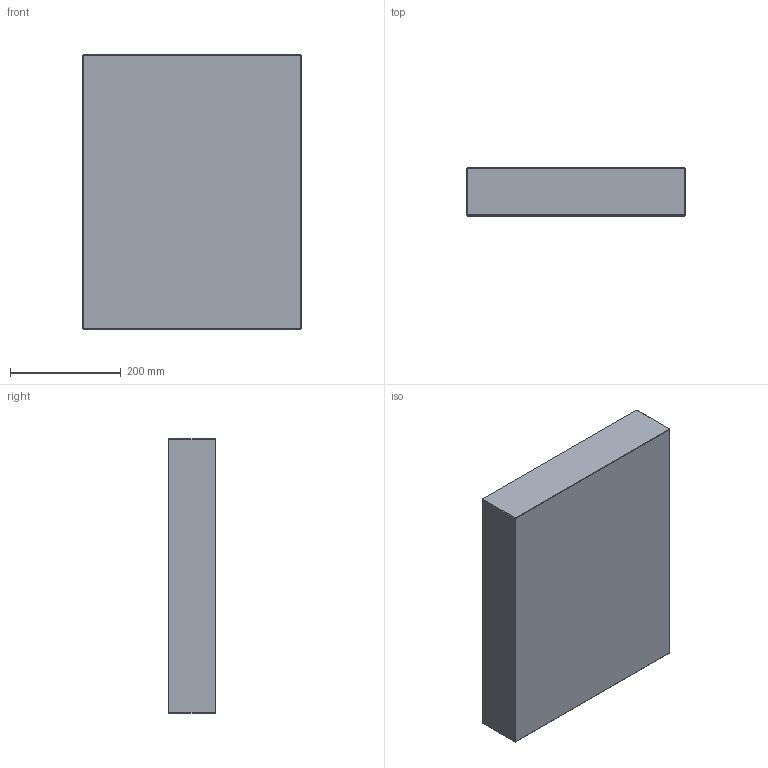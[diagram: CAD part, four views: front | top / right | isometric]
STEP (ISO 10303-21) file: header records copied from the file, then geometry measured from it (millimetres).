
FILE_DESCRIPTION (( 'STEP AP214' ), '1' );
FILE_NAME ('PC-P-396x496x86.STEP', '2020-04-01T10:41:54', ( 'August' ), ( '' ), 'SwSTEP 2.0', 'SolidWorks 2018', '' );
FILE_SCHEMA (( 'AUTOMOTIVE_DESIGN' ));
Length unit declared in the file: millimetre
Products named in the file (1): PC-P-396x496x86
Bounding box: 396 x 86 x 496 mm (x, y, z)
Volume: 16889825.3 mm3; surface area: 543961.4 mm2
Topology: 1 solids, 1 shells, 26 faces, 48 edges, 24 vertices
Faces by surface type: plane 26
Entity records: 634 total; most frequent: DIRECTION 102, CARTESIAN_POINT 99, ORIENTED_EDGE 96, LINE 48, VECTOR 48, EDGE_CURVE 48, AXIS2_PLACEMENT_3D 27, FACE_OUTER_BOUND 26
